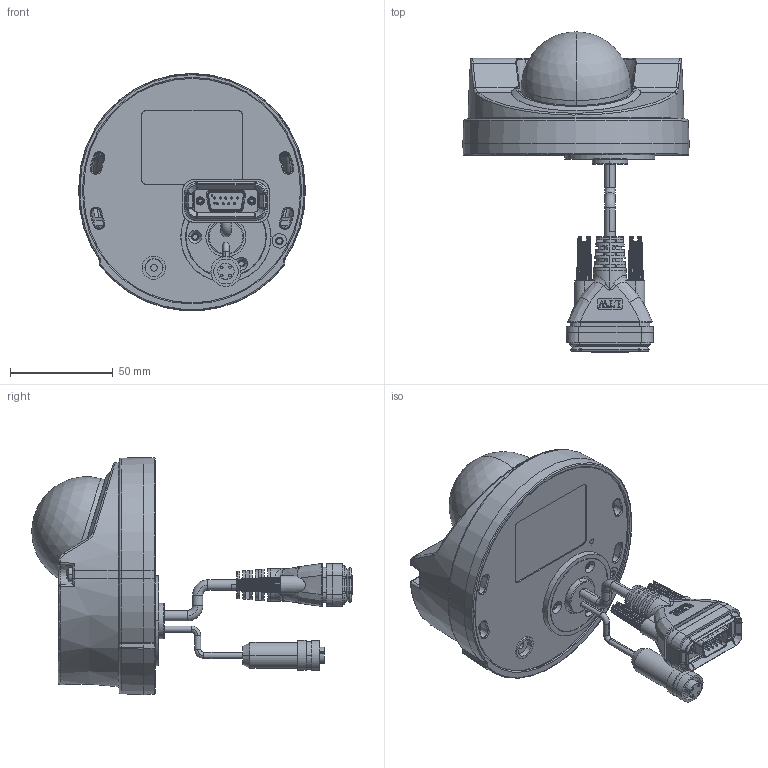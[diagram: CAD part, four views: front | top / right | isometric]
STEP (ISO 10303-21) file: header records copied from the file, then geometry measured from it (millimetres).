
FILE_DESCRIPTION((''),'2;1');
FILE_NAME('PRT0001','2017-11-20T',('Sam_Liu'),('PTC'),'PRO/ENGINEER BY PARAMETRIC TECHNOLOGY CORPORATION, 2013320','PRO/ENGINEER BY PARAMETRIC TECHNOLOGY CORPORATION, 2013320','');
FILE_SCHEMA(('AUTOMOTIVE_DESIGN { 1 0 10303 214 1 1 1 1 }'));
Products named in the file (1): PRT0001
Bounding box: 110 x 155.69 x 115.3 mm (x, y, z)
Volume: 174587.4 mm3; surface area: 114580 mm2
Topology: 2 solids, 8 shells, 2951 faces, 8014 edges, 5160 vertices
Faces by surface type: plane 1446, cylinder 598, cone 317, bspline 282, torus 133, extrusion 96, sphere 72, revolution 7
Entity records: 126936 total; most frequent: CARTESIAN_POINT 39350, ORIENTED_EDGE 15884, DIRECTION 14906, EDGE_CURVE 7948, AXIS2_PLACEMENT_3D 5559, VERTEX_POINT 5160, VECTOR 3781, LINE 3685
